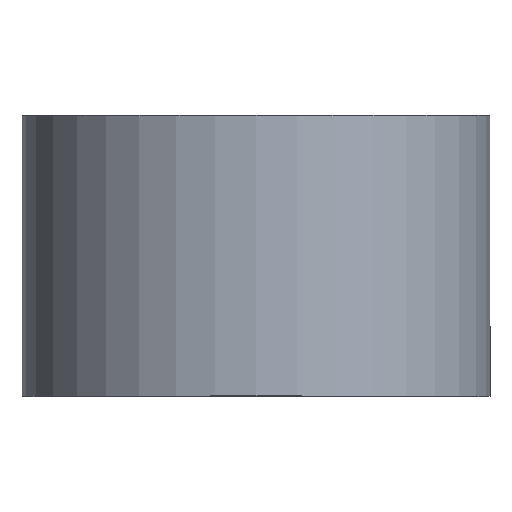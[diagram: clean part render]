
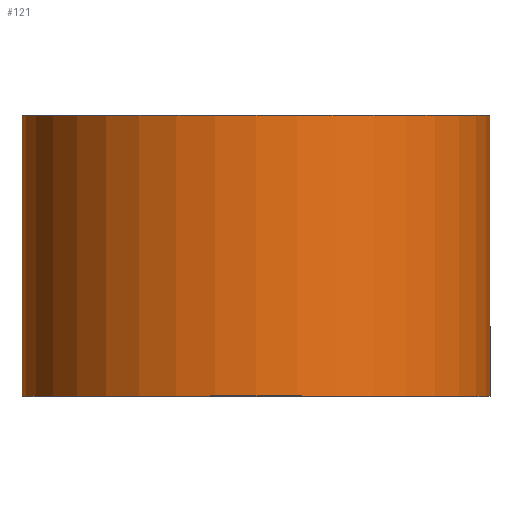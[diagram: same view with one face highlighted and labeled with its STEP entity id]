
A CAD part, top view. The second image highlights one B-rep face of the part: STEP entity #121.
In plain terms, the highlighted cylindrical face has radius 25 mm (diameter 50 mm), a partial arc.
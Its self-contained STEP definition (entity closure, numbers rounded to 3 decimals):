
#40 = CARTESIAN_POINT ( 'NONE',  ( 0., -15., 0. ) ) ;
#42 = DIRECTION ( 'NONE',  ( 0., 1., 0. ) ) ;
#46 = EDGE_CURVE ( 'NONE', #755, #889, #729, .T. ) ;
#47 = DIRECTION ( 'NONE',  ( 0., 1., 0. ) ) ;
#78 = ORIENTED_EDGE ( 'NONE', *, *, #360, .F. ) ;
#118 = ORIENTED_EDGE ( 'NONE', *, *, #727, .T. ) ;
#121 = ADVANCED_FACE ( 'NONE', ( #413 ), #704, .T. ) ;
#147 = CIRCLE ( 'NONE', #932, 25. ) ;
#216 = ORIENTED_EDGE ( 'NONE', *, *, #479, .T. ) ;
#278 = DIRECTION ( 'NONE',  ( -1., 0., 0. ) ) ;
#308 = CARTESIAN_POINT ( 'NONE',  ( 25., 0., 0. ) ) ;
#324 = CARTESIAN_POINT ( 'NONE',  ( 25., -15., 0. ) ) ;
#355 = DIRECTION ( 'NONE',  ( 0., 1., 0. ) ) ;
#360 = EDGE_CURVE ( 'NONE', #647, #755, #944, .T. ) ;
#378 = VECTOR ( 'NONE', #383, 1000. ) ;
#383 = DIRECTION ( 'NONE',  ( 0., 1., 0. ) ) ;
#413 = FACE_OUTER_BOUND ( 'NONE', #496, .T. ) ;
#421 = CARTESIAN_POINT ( 'NONE',  ( -25., 0., 0. ) ) ;
#425 = CARTESIAN_POINT ( 'NONE',  ( -25., 15., 0. ) ) ;
#427 = DIRECTION ( 'NONE',  ( 0., 1., 0. ) ) ;
#479 = EDGE_CURVE ( 'NONE', #596, #889, #514, .T. ) ;
#490 = CARTESIAN_POINT ( 'NONE',  ( 0., 15., 0. ) ) ;
#491 = ORIENTED_EDGE ( 'NONE', *, *, #46, .F. ) ;
#496 = EDGE_LOOP ( 'NONE', ( #118, #216, #491, #78 ) ) ;
#514 = LINE ( 'NONE', #308, #378 ) ;
#515 = VECTOR ( 'NONE', #427, 1000. ) ;
#544 = CARTESIAN_POINT ( 'NONE',  ( 25., 15., 0. ) ) ;
#596 = VERTEX_POINT ( 'NONE', #324 ) ;
#647 = VERTEX_POINT ( 'NONE', #702 ) ;
#702 = CARTESIAN_POINT ( 'NONE',  ( -25., -15., 0. ) ) ;
#704 = CYLINDRICAL_SURFACE ( 'NONE', #914, 25. ) ;
#709 = DIRECTION ( 'NONE',  ( -1., 0., 0. ) ) ;
#711 = DIRECTION ( 'NONE',  ( -1., 0., 0. ) ) ;
#727 = EDGE_CURVE ( 'NONE', #647, #596, #147, .T. ) ;
#729 = CIRCLE ( 'NONE', #853, 25. ) ;
#755 = VERTEX_POINT ( 'NONE', #425 ) ;
#853 = AXIS2_PLACEMENT_3D ( 'NONE', #490, #47, #709 ) ;
#889 = VERTEX_POINT ( 'NONE', #544 ) ;
#914 = AXIS2_PLACEMENT_3D ( 'NONE', #938, #42, #278 ) ;
#932 = AXIS2_PLACEMENT_3D ( 'NONE', #40, #355, #711 ) ;
#938 = CARTESIAN_POINT ( 'NONE',  ( 0., 0., 0. ) ) ;
#944 = LINE ( 'NONE', #421, #515 ) ;
